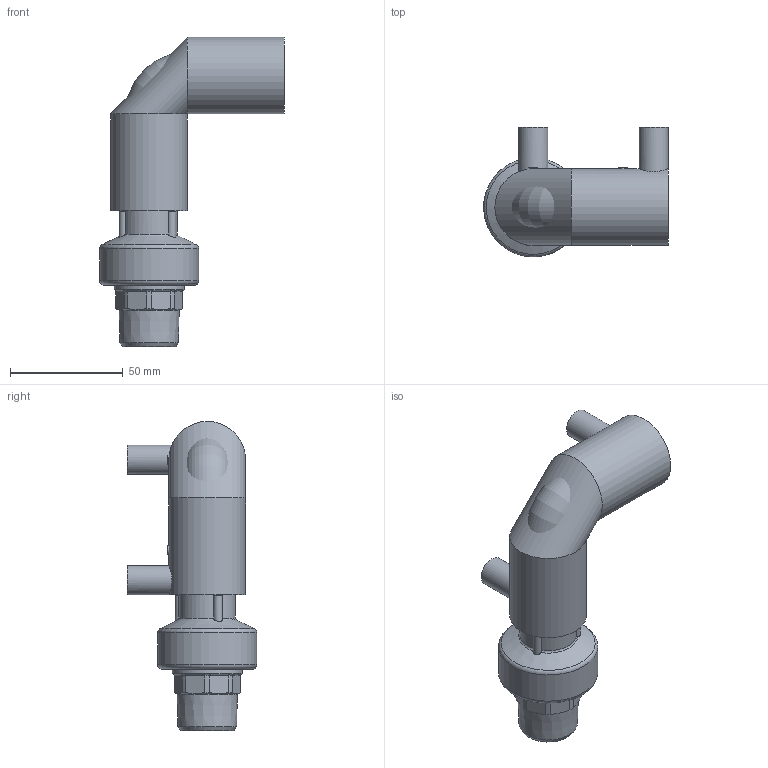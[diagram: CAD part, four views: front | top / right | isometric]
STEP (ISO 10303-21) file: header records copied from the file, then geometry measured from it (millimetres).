
FILE_DESCRIPTION(/* description */ ('Unknown'),/* implementation_level */ '2;1');
FILE_NAME(/* name */ 'GE9TMP025C.PF',/* time_stamp */ '2021-11-10T16:32:08+01:00',/* author */ ('Unknown'),/* organization */ ('Unknown'),/* preprocessor_version */ 'ST-DEVELOPER v16.7',/* originating_system */ 'Solid Edge',/* authorisation */ 'Unknown');
FILE_SCHEMA (('AUTOMOTIVE_DESIGN {1 0 10303 214 3 1 1}'));
Length unit declared in the file: millimetre
Products named in the file (5): GE9TMP025C.PF; GE9P025C.PF; RTOMP025C; Parte PE 025; IOM025C
Assembly tree (4 placements, depth 3):
  GE9TMP025C.PF
    GE9P025C.PF
    RTOMP025C
      Parte PE 025
      IOM025C
Bounding box: 81.98 x 57.48 x 137.3 mm (x, y, z)
Volume: 95993.3 mm3; surface area: 48287.8 mm2
Topology: 3 solids, 3 shells, 466 faces, 1237 edges, 793 vertices
Faces by surface type: cylinder 192, cone 86, plane 85, bspline 63, torus 40
Full cylindrical faces by diameter (mm): 4 x4, 10 x2, 13 x2, 19 x1, 20 x1, 21 x2, 23.5 x2, 25 x3, 26.3 x2, 26.5 x2, 31 x1, 33 x2, 34 x2, 36 x4, 44 x1
Entity records: 17842 total; most frequent: CARTESIAN_POINT 5997, ORIENTED_EDGE 2322, DIRECTION 1810, EDGE_CURVE 1161, AXIS2_PLACEMENT_3D 821, VERTEX_POINT 771, B_SPLINE_CURVE_WITH_KNOTS 580, EDGE_LOOP 542
